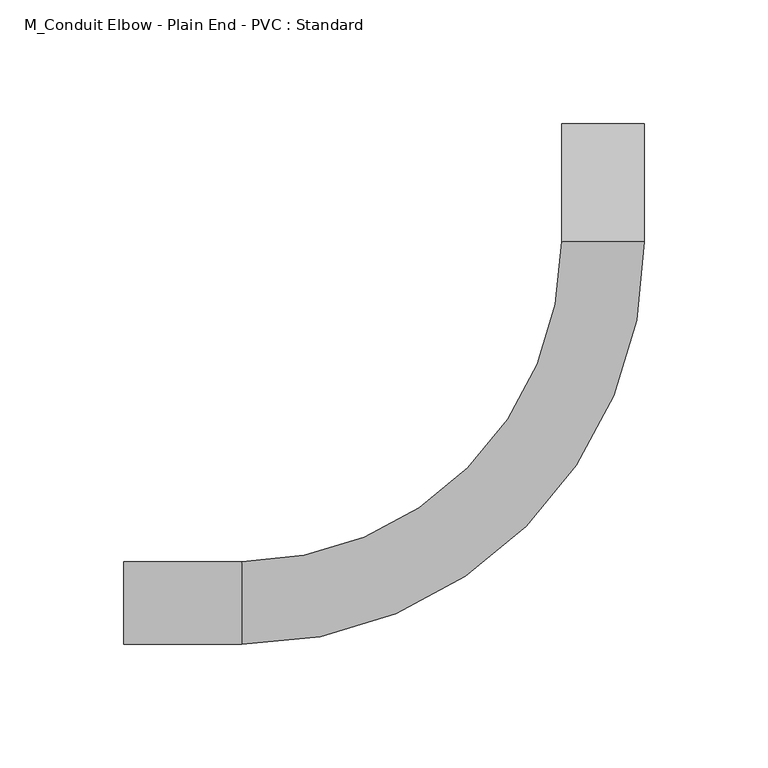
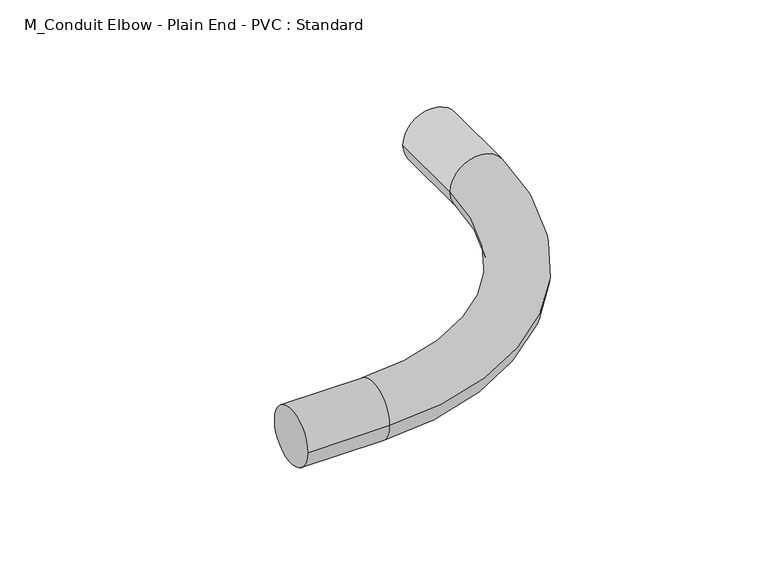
"""IFC4 building model written with IfcOpenShell, lengths in millimetres: cable carrier fitting geometry, M_Conduit Elbow - Plain End - PVC : Standard."""

from ifc_helpers import new_model, si_unit, point, frame, origin, place, context, project, spatial, circle_curve, ellipse_curve, trimmed, source, transform, mapped, element, save
from ifc_brep_helpers import plane_surface, cylinder_surface, revolved_surface, advanced_brep


def m_conduit_elbow_plain_end_pvc_standard_b2e2501a(model_context):
    return source(origin(), model_context, "Body", "AdvancedBrep", [
        advanced_brep(
        [(-193.675, -16.7005, 0.0), (-193.675, 16.7005, 0.0), (-146.05, -16.7005, 0.0), (-146.05, 16.7005, 0.0), (-16.7005, 146.05, 0.0), (16.7005, 146.05, 0.0), (16.7005, 193.675, 0.0), (-16.7005, 193.675, 0.0)],
        [
            (0, 1, circle_curve(frame((-193.675, 0.0, 0.0), z_axis=(-1.0, 0.0, 0.0), x_axis=(0.0, 1.0, 0.0)), 16.7005)),
            (1, 0, circle_curve(frame((-193.675, 0.0, 0.0), z_axis=(-1.0, 0.0, 0.0), x_axis=(0.0, 1.0, 0.0)), 16.7005)),
            (0, 2),
            (2, 3, circle_curve(frame((-146.05, 0.0, 0.0), z_axis=(-1.0, 0.0, 0.0), x_axis=(0.0, 1.0, 0.0)), 16.7005)),
            (3, 1),
            (3, 2, circle_curve(frame((-146.05, 0.0, 0.0), z_axis=(-1.0, 0.0, 0.0), x_axis=(0.0, 1.0, 0.0)), 16.7005)),
            (4, 3, circle_curve(frame((-146.05, 146.05, 0.0), z_axis=(0.0, 0.0, -1.0), x_axis=(0.0, -1.0, 0.0)), 129.3495)),
            (2, 5, circle_curve(frame((-146.05, 146.05, 0.0), z_axis=(0.0, 0.0, 1.0), x_axis=(0.0, -1.0, 0.0)), 162.7505)),
            (5, 4, circle_curve(frame((0.0, 146.05, 0.0), z_axis=(0.0, -1.0, 0.0), x_axis=(-1.0, 0.0, 0.0)), 16.7005)),
            (4, 5, circle_curve(frame((0.0, 146.05, 0.0), z_axis=(0.0, -1.0, 0.0), x_axis=(-1.0, 0.0, 0.0)), 16.7005)),
            (6, 7, circle_curve(frame((0.0, 193.675, 0.0), z_axis=(0.0, 1.0, 0.0), x_axis=(-1.0, 0.0, 0.0)), 16.7005)),
            (7, 6, circle_curve(frame((0.0, 193.675, 0.0), z_axis=(0.0, 1.0, 0.0), x_axis=(-1.0, 0.0, 0.0)), 16.7005)),
            (5, 6),
            (7, 4),
        ],
        [
            plane_surface(frame((-193.675, 0.0, 0.0), z_axis=(-1.0, 0.0, 0.0), x_axis=(0.0, 0.0, 1.0))),
            cylinder_surface(frame((-193.675, 0.0, 0.0), z_axis=(-1.0, 0.0, 0.0), x_axis=(0.0, 1.0, 0.0)), 16.7005),
            revolved_surface(trimmed(ellipse_curve(frame((-146.05, 0.0, 0.0), z_axis=(-1.0, 0.0, 0.0), x_axis=(0.0, 1.0, 0.0)), 16.7005, 16.7005), [point((-146.05, -16.7005, 0.0))], [point((-146.05, 16.7005, 0.0))], True, "CARTESIAN"), (-146.05, 146.05, 0.0), (0.0, 0.0, 1.0)),
            revolved_surface(trimmed(ellipse_curve(frame((-146.05, 0.0, 0.0), z_axis=(-1.0, 0.0, 0.0), x_axis=(0.0, 1.0, 0.0)), 16.7005, 16.7005), [point((-146.05, 16.7005, 0.0))], [point((-146.05, -16.7005, 0.0))], True, "CARTESIAN"), (-146.05, 146.05, 0.0), (0.0, 0.0, 1.0)),
            plane_surface(frame((0.0, 193.675, 0.0), z_axis=(0.0, 1.0, 0.0), x_axis=(0.0, 0.0, 1.0))),
            cylinder_surface(frame((0.0, 146.05, 0.0), z_axis=(0.0, -1.0, 0.0), x_axis=(-1.0, 0.0, 0.0)), 16.7005),
        ],
        [
            (0, [[1, 2]]),
            (1, [[-1, 3, 4, 5]]),
            (1, [[-2, -5, 6, -3]]),
            (2, [[7, -4, 8, 9]]),
            (3, [[-8, -6, -7, 10]]),
            (4, [[11, 12]]),
            (5, [[-9, 13, -12, 14]]),
            (5, [[-10, -14, -11, -13]]),
        ],
    ),
    ])


if __name__ == "__main__":
    model = new_model("IFC4")
    model_context = context("Model", 3, world=origin())
    ifc_project = project(units=[si_unit("LENGTHUNIT", "METRE", prefix="MILLI")], contexts=[model_context])
    site = spatial("IfcSite", under=ifc_project)
    building = spatial("IfcBuilding", under=site)
    placement = place(None, origin())
    m_conduit_elbow_plain_end_pvc_standard_shape = m_conduit_elbow_plain_end_pvc_standard_b2e2501a(model_context)
    element("IfcCableCarrierFitting", 1, ObjectType="M_Conduit Elbow - Plain End - PVC : Standard", at=placement, inside=building, context=model_context, shape_type="MappedRepresentation", body=[
        mapped(m_conduit_elbow_plain_end_pvc_standard_shape, transform((0.0, 0.0, 0.0), x_axis=(1.0, 0.0, 0.0), y_axis=(0.0, 1.0, 0.0), z_axis=(0.0, 0.0, 1.0))),
    ])
    save(model, "model.ifc")
